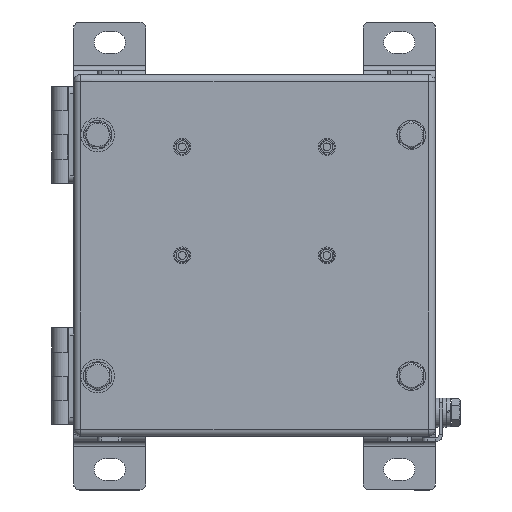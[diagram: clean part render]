
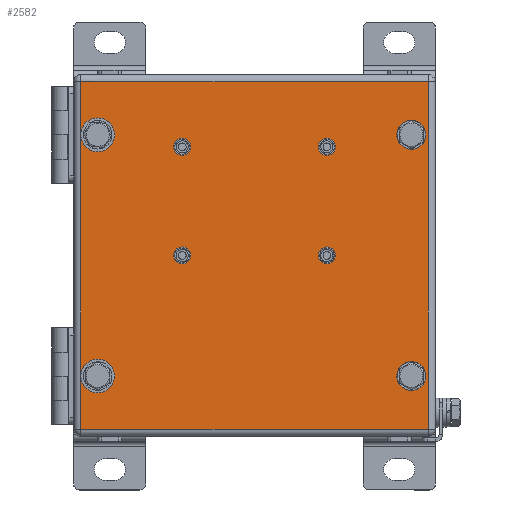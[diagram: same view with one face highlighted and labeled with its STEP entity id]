
A CAD part, top view. The second image highlights one B-rep face of the part: STEP entity #2582.
In plain terms, the highlighted planar face has unit normal (0, 0, 1).
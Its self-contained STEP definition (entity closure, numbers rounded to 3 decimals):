
#2056=CARTESIAN_POINT('',(72.0,-72.,120.));
#2057=VERTEX_POINT('',#2056);
#2123=CARTESIAN_POINT('',(72.0,72.,120.));
#2124=VERTEX_POINT('',#2123);
#2190=CARTESIAN_POINT('',(-72.,-72.,120.));
#2191=VERTEX_POINT('',#2190);
#2263=CARTESIAN_POINT('',(72.0,-72.,120.));
#2264=DIRECTION('',(-1.0,0.0,0.0));
#2265=VECTOR('',#2264,144.0);
#2266=LINE('',#2263,#2265);
#2267=EDGE_CURVE('',#2057,#2191,#2266,.T.);
#2279=CARTESIAN_POINT('',(-72.,72.,120.));
#2280=VERTEX_POINT('',#2279);
#2352=CARTESIAN_POINT('',(-72.,-72.,120.));
#2353=DIRECTION('',(0.0,1.0,0.0));
#2354=VECTOR('',#2353,144.0);
#2355=LINE('',#2352,#2354);
#2356=EDGE_CURVE('',#2191,#2280,#2355,.T.);
#2374=CARTESIAN_POINT('',(-72.0,72.,120.));
#2375=DIRECTION('',(1.0,0.0,0.0));
#2376=VECTOR('',#2375,144.0);
#2377=LINE('',#2374,#2376);
#2378=EDGE_CURVE('',#2280,#2124,#2377,.T.);
#2396=CARTESIAN_POINT('',(72.0,72.,120.));
#2397=DIRECTION('',(0.0,-1.0,0.0));
#2398=VECTOR('',#2397,144.);
#2399=LINE('',#2396,#2398);
#2400=EDGE_CURVE('',#2124,#2057,#2399,.T.);
#2483=CARTESIAN_POINT('',(0.,0.,120.));
#2484=DIRECTION('',(0.0,0.0,1.0));
#2485=DIRECTION('',(1.0,0.0,0.0));
#2486=AXIS2_PLACEMENT_3D('',#2483,#2484,#2485);
#2487=PLANE('',#2486);
#2488=ORIENTED_EDGE('',*,*,#2267,.F.);
#2489=ORIENTED_EDGE('',*,*,#2400,.F.);
#2490=ORIENTED_EDGE('',*,*,#2378,.F.);
#2491=ORIENTED_EDGE('',*,*,#2356,.F.);
#2492=EDGE_LOOP('',(#2488,#2489,#2490,#2491));
#2493=FACE_OUTER_BOUND('',#2492,.T.);
#2494=CARTESIAN_POINT('',(-61.25,50.,120.));
#2495=VERTEX_POINT('',#2494);
#2496=CARTESIAN_POINT('',(-65.,50.,120.));
#2497=DIRECTION('',(0.0,0.0,-1.0));
#2498=DIRECTION('',(-1.0,0.0,0.0));
#2499=AXIS2_PLACEMENT_3D('',#2496,#2497,#2498);
#2500=CIRCLE('',#2499,3.75);
#2501=EDGE_CURVE('',#2495,#2495,#2500,.T.);
#2502=ORIENTED_EDGE('',*,*,#2501,.T.);
#2503=EDGE_LOOP('',(#2502));
#2504=FACE_BOUND('',#2503,.T.);
#2505=CARTESIAN_POINT('',(68.75,50.,120.));
#2506=VERTEX_POINT('',#2505);
#2507=CARTESIAN_POINT('',(65.,50.,120.));
#2508=DIRECTION('',(0.0,0.0,-1.0));
#2509=DIRECTION('',(-1.0,0.0,0.0));
#2510=AXIS2_PLACEMENT_3D('',#2507,#2508,#2509);
#2511=CIRCLE('',#2510,3.75);
#2512=EDGE_CURVE('',#2506,#2506,#2511,.T.);
#2513=ORIENTED_EDGE('',*,*,#2512,.T.);
#2514=EDGE_LOOP('',(#2513));
#2515=FACE_BOUND('',#2514,.T.);
#2516=CARTESIAN_POINT('',(-61.25,-50.,120.0));
#2517=VERTEX_POINT('',#2516);
#2518=CARTESIAN_POINT('',(-65.,-50.,120.0));
#2519=DIRECTION('',(0.0,0.0,-1.0));
#2520=DIRECTION('',(-1.0,0.0,0.0));
#2521=AXIS2_PLACEMENT_3D('',#2518,#2519,#2520);
#2522=CIRCLE('',#2521,3.75);
#2523=EDGE_CURVE('',#2517,#2517,#2522,.T.);
#2524=ORIENTED_EDGE('',*,*,#2523,.T.);
#2525=EDGE_LOOP('',(#2524));
#2526=FACE_BOUND('',#2525,.T.);
#2527=CARTESIAN_POINT('',(68.75,-50.,120.));
#2528=VERTEX_POINT('',#2527);
#2529=CARTESIAN_POINT('',(65.,-50.,120.));
#2530=DIRECTION('',(0.0,0.0,-1.0));
#2531=DIRECTION('',(-1.0,0.0,0.0));
#2532=AXIS2_PLACEMENT_3D('',#2529,#2530,#2531);
#2533=CIRCLE('',#2532,3.75);
#2534=EDGE_CURVE('',#2528,#2528,#2533,.T.);
#2535=ORIENTED_EDGE('',*,*,#2534,.T.);
#2536=EDGE_LOOP('',(#2535));
#2537=FACE_BOUND('',#2536,.T.);
#2538=CARTESIAN_POINT('',(33.05,45.,120.));
#2539=VERTEX_POINT('',#2538);
#2540=CARTESIAN_POINT('',(30.,45.,120.));
#2541=DIRECTION('',(0.0,0.0,-1.0));
#2542=DIRECTION('',(-1.0,0.0,0.0));
#2543=AXIS2_PLACEMENT_3D('',#2540,#2541,#2542);
#2544=CIRCLE('',#2543,3.05);
#2545=EDGE_CURVE('',#2539,#2539,#2544,.T.);
#2546=ORIENTED_EDGE('',*,*,#2545,.T.);
#2547=EDGE_LOOP('',(#2546));
#2548=FACE_BOUND('',#2547,.T.);
#2549=CARTESIAN_POINT('',(-26.95,45.,120.));
#2550=VERTEX_POINT('',#2549);
#2551=CARTESIAN_POINT('',(-30.,45.,120.));
#2552=DIRECTION('',(0.0,0.0,-1.0));
#2553=DIRECTION('',(-1.0,0.0,0.0));
#2554=AXIS2_PLACEMENT_3D('',#2551,#2552,#2553);
#2555=CIRCLE('',#2554,3.05);
#2556=EDGE_CURVE('',#2550,#2550,#2555,.T.);
#2557=ORIENTED_EDGE('',*,*,#2556,.T.);
#2558=EDGE_LOOP('',(#2557));
#2559=FACE_BOUND('',#2558,.T.);
#2560=CARTESIAN_POINT('',(-26.95,0.,120.));
#2561=VERTEX_POINT('',#2560);
#2562=CARTESIAN_POINT('',(-30.,0.,120.));
#2563=DIRECTION('',(0.0,0.0,-1.0));
#2564=DIRECTION('',(-1.0,0.0,0.0));
#2565=AXIS2_PLACEMENT_3D('',#2562,#2563,#2564);
#2566=CIRCLE('',#2565,3.05);
#2567=EDGE_CURVE('',#2561,#2561,#2566,.T.);
#2568=ORIENTED_EDGE('',*,*,#2567,.T.);
#2569=EDGE_LOOP('',(#2568));
#2570=FACE_BOUND('',#2569,.T.);
#2571=CARTESIAN_POINT('',(33.05,0.,120.));
#2572=VERTEX_POINT('',#2571);
#2573=CARTESIAN_POINT('',(30.,0.,120.));
#2574=DIRECTION('',(0.0,0.0,-1.0));
#2575=DIRECTION('',(-1.0,0.0,0.0));
#2576=AXIS2_PLACEMENT_3D('',#2573,#2574,#2575);
#2577=CIRCLE('',#2576,3.05);
#2578=EDGE_CURVE('',#2572,#2572,#2577,.T.);
#2579=ORIENTED_EDGE('',*,*,#2578,.T.);
#2580=EDGE_LOOP('',(#2579));
#2581=FACE_BOUND('',#2580,.T.);
#2582=ADVANCED_FACE('',(#2493,#2504,#2515,#2526,#2537,#2548,#2559,#2570,#2581),#2487,.T.);
